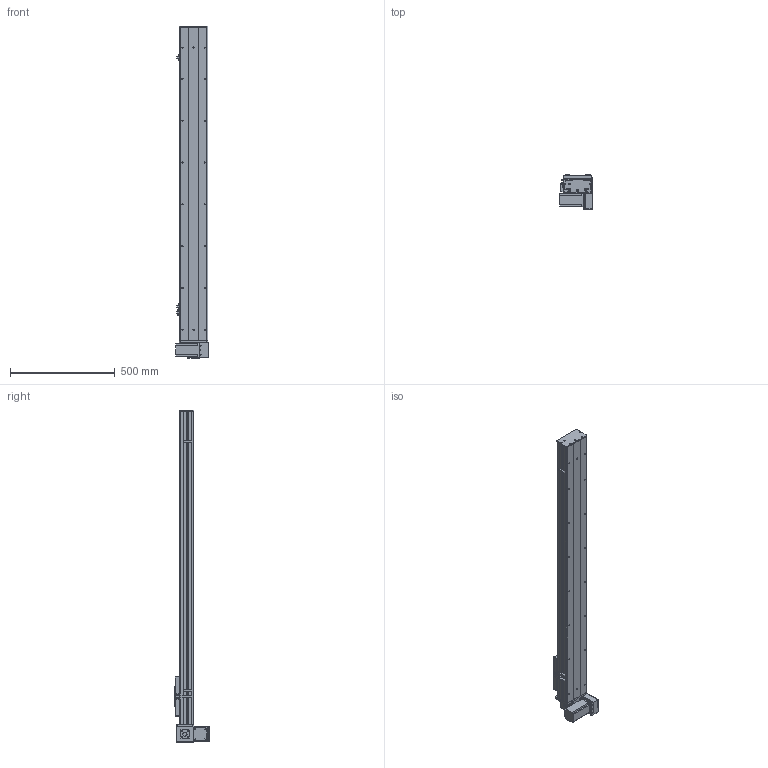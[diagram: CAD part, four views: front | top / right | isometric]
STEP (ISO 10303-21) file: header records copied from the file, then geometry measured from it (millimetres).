
FILE_DESCRIPTION (( 'STEP AP203' ), '1' );
FILE_NAME ('Y135CB-D90-S1200-BM-P400W.STEP', '2020-02-19T01:23:49', ( '微软用户' ), ( '微软中国' ), 'SwSTEP 2.0', 'SolidWorks 2017', '' );
FILE_SCHEMA (( 'CONFIG_CONTROL_DESIGN' ));
Length unit declared in the file: millimetre
Products named in the file (18): Y135C-陔俋离換覜結え-; 0B-埴倛裔啣; 5C--俋欶; 0B-源倛裔啣; C-雄赽釱--; 0B-萇儂楊擘啣; Y10B--々湍喘謫眊--666; san松下电机400不带刹车----; 00B-俋欶BM--; 5CB --掛极耜裔啣-; Y10B-耜蚾蟀諉啣----; C-詩湍揤踡え-陔; Y135CB-耜裔; Y135CB-D90-S1200-BM-P400W; 135CB--詩湍-CE; 135CB---遴掛极.-; Y100-135俋离換覜ん--; 35CB---喘謫眊楊擘啣
Assembly tree (21 placements, depth 2):
  Y135CB-D90-S1200-BM-P400W
    Y135CB-耜裔
    135CB---遴掛极.-
    35CB---喘謫眊楊擘啣
    0B-埴倛裔啣
    0B-源倛裔啣
    0B-萇儂楊擘啣
    san松下电机400不带刹车----
    5CB --掛极耜裔啣-  x2
    C-詩湍揤踡え-陔  x2
    135CB--詩湍-CE
    Y100-135俋离換覜ん--  x3
    Y135C-陔俋离換覜結え-
    5C--俋欶
    C-雄赽釱--
    Y10B--々湍喘謫眊--666
    00B-俋欶BM--
    Y10B-耜蚾蟀諉啣----
Bounding box: 157 x 163.3 x 1588 mm (x, y, z)
Volume: 4905834.9 mm3; surface area: 1924724.4 mm2
Topology: 21 solids, 21 shells, 949 faces, 2545 edges, 1686 vertices
Faces by surface type: cylinder 477, plane 456, cone 16
Entity records: 29551 total; most frequent: DIRECTION 4909, CARTESIAN_POINT 4856, ORIENTED_EDGE 4566, EDGE_CURVE 2283, AXIS2_PLACEMENT_3D 1791, VERTEX_POINT 1514, VECTOR 1327, LINE 1327
